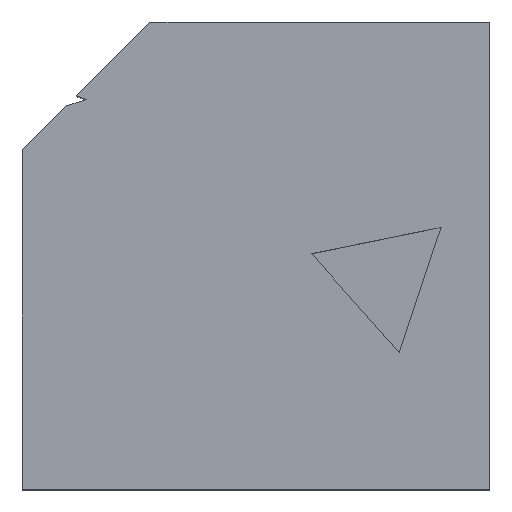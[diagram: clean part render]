
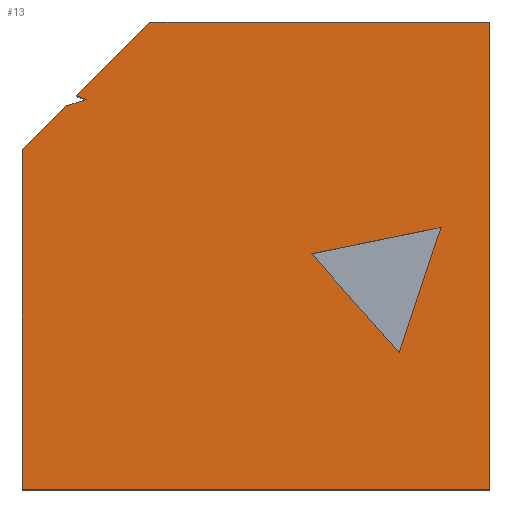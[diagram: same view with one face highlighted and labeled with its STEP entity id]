
A CAD part, top view. The second image highlights one B-rep face of the part: STEP entity #13.
In plain terms, the highlighted planar face has unit normal (0, 0, 1).
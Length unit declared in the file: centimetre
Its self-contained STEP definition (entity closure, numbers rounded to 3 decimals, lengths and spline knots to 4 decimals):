
#1 = CARTESIAN_POINT ( 'NONE',  ( 136.9483, 834.4226, 1000. ) ) ;
#11 = EDGE_CURVE ( 'NONE', #136, #599, #299, .T. ) ;
#13 = ADVANCED_FACE ( 'NONE', ( #810, #107 ), #33, .T. ) ;
#17 = EDGE_CURVE ( 'NONE', #551, #245, #232, .T. ) ;
#33 = PLANE ( 'NONE',  #803 ) ;
#41 = VECTOR ( 'NONE', #816, 100. ) ;
#45 = CARTESIAN_POINT ( 'NONE',  ( 619.0851, 504.044, 1000. ) ) ;
#47 = EDGE_CURVE ( 'NONE', #427, #551, #685, .T. ) ;
#55 = VECTOR ( 'NONE', #836, 100. ) ;
#64 = CARTESIAN_POINT ( 'NONE',  ( 0., 788.963, 1000. ) ) ;
#68 = ORIENTED_EDGE ( 'NONE', *, *, #412, .F. ) ;
#70 = DIRECTION ( 'NONE',  ( -0.707, -0.707, 0. ) ) ;
#80 = LINE ( 'NONE', #340, #547 ) ;
#101 = VECTOR ( 'NONE', #555, 100. ) ;
#107 = FACE_OUTER_BOUND ( 'NONE', #545, .T. ) ;
#132 = LINE ( 'NONE', #780, #718 ) ;
#136 = VERTEX_POINT ( 'NONE', #503 ) ;
#137 = CARTESIAN_POINT ( 'NONE',  ( 806.3402, 292.5703, 1000. ) ) ;
#144 = CARTESIAN_POINT ( 'NONE',  ( 92.9312, 819.8113, 1000. ) ) ;
#152 = CARTESIAN_POINT ( 'NONE',  ( 1000., 0., 1000. ) ) ;
#155 = VECTOR ( 'NONE', #487, 100. ) ;
#166 = DIRECTION ( 'NONE',  ( 0.317, 0.948, 0. ) ) ;
#169 = VECTOR ( 'NONE', #771, 100. ) ;
#173 = ORIENTED_EDGE ( 'NONE', *, *, #11, .T. ) ;
#179 = CARTESIAN_POINT ( 'NONE',  ( 0., 0., 1000. ) ) ;
#231 = ORIENTED_EDGE ( 'NONE', *, *, #748, .T. ) ;
#232 = LINE ( 'NONE', #45, #155 ) ;
#234 = ORIENTED_EDGE ( 'NONE', *, *, #280, .T. ) ;
#235 = ORIENTED_EDGE ( 'NONE', *, *, #459, .T. ) ;
#238 = VECTOR ( 'NONE', #842, 100. ) ;
#243 = CARTESIAN_POINT ( 'NONE',  ( 895.8542, 560.4748, 1000. ) ) ;
#245 = VERTEX_POINT ( 'NONE', #137 ) ;
#249 = LINE ( 'NONE', #765, #169 ) ;
#254 = LINE ( 'NONE', #702, #238 ) ;
#274 = CARTESIAN_POINT ( 'NONE',  ( 114.871, 841.751, 1000. ) ) ;
#280 = EDGE_CURVE ( 'NONE', #599, #365, #80, .T. ) ;
#289 = EDGE_LOOP ( 'NONE', ( #460, #593, #68 ) ) ;
#292 = CARTESIAN_POINT ( 'NONE',  ( 1000., 1000., 1000. ) ) ;
#295 = EDGE_CURVE ( 'NONE', #534, #838, #249, .T. ) ;
#298 = ORIENTED_EDGE ( 'NONE', *, *, #651, .T. ) ;
#299 = LINE ( 'NONE', #671, #41 ) ;
#323 = CARTESIAN_POINT ( 'NONE',  ( 619.0851, 504.044, 1000. ) ) ;
#329 = ORIENTED_EDGE ( 'NONE', *, *, #295, .T. ) ;
#338 = LINE ( 'NONE', #64, #55 ) ;
#340 = CARTESIAN_POINT ( 'NONE',  ( 1000., 1000., 1000. ) ) ;
#359 = DIRECTION ( 'NONE',  ( 0., 0., 1. ) ) ;
#362 = ORIENTED_EDGE ( 'NONE', *, *, #466, .T. ) ;
#365 = VERTEX_POINT ( 'NONE', #292 ) ;
#368 = VECTOR ( 'NONE', #166, 100. ) ;
#375 = VERTEX_POINT ( 'NONE', #802 ) ;
#386 = LINE ( 'NONE', #397, #101 ) ;
#397 = CARTESIAN_POINT ( 'NONE',  ( 0., 1000., 1000. ) ) ;
#411 = DIRECTION ( 'NONE',  ( 1., 0., 0. ) ) ;
#412 = EDGE_CURVE ( 'NONE', #245, #427, #742, .T. ) ;
#427 = VERTEX_POINT ( 'NONE', #243 ) ;
#459 = EDGE_CURVE ( 'NONE', #838, #844, #558, .T. ) ;
#460 = ORIENTED_EDGE ( 'NONE', *, *, #17, .F. ) ;
#466 = EDGE_CURVE ( 'NONE', #375, #136, #254, .T. ) ;
#487 = DIRECTION ( 'NONE',  ( 0.663, -0.749, 0. ) ) ;
#503 = CARTESIAN_POINT ( 'NONE',  ( 0., 0., 1000. ) ) ;
#515 = DIRECTION ( 'NONE',  ( 0.949, -0.315, 0. ) ) ;
#534 = VERTEX_POINT ( 'NONE', #840 ) ;
#545 = EDGE_LOOP ( 'NONE', ( #298, #603, #362, #173, #234, #231, #329, #235 ) ) ;
#547 = VECTOR ( 'NONE', #575, 100. ) ;
#549 = VERTEX_POINT ( 'NONE', #144 ) ;
#551 = VERTEX_POINT ( 'NONE', #323 ) ;
#555 = DIRECTION ( 'NONE',  ( -1., 0., 0. ) ) ;
#558 = LINE ( 'NONE', #1, #572 ) ;
#572 = VECTOR ( 'NONE', #515, 100. ) ;
#575 = DIRECTION ( 'NONE',  ( 0., 1., 0. ) ) ;
#593 = ORIENTED_EDGE ( 'NONE', *, *, #47, .F. ) ;
#595 = VECTOR ( 'NONE', #693, 100. ) ;
#599 = VERTEX_POINT ( 'NONE', #152 ) ;
#603 = ORIENTED_EDGE ( 'NONE', *, *, #729, .T. ) ;
#651 = EDGE_CURVE ( 'NONE', #844, #549, #338, .T. ) ;
#663 = CARTESIAN_POINT ( 'NONE',  ( 806.3402, 292.5703, 1000. ) ) ;
#671 = CARTESIAN_POINT ( 'NONE',  ( 0., 0., 1000. ) ) ;
#685 = LINE ( 'NONE', #777, #595 ) ;
#693 = DIRECTION ( 'NONE',  ( -0.98, -0.2, 0. ) ) ;
#702 = CARTESIAN_POINT ( 'NONE',  ( 0., 1000., 1000. ) ) ;
#718 = VECTOR ( 'NONE', #70, 100. ) ;
#729 = EDGE_CURVE ( 'NONE', #549, #375, #132, .T. ) ;
#732 = CARTESIAN_POINT ( 'NONE',  ( 136.9483, 834.4226, 1000. ) ) ;
#742 = LINE ( 'NONE', #663, #368 ) ;
#748 = EDGE_CURVE ( 'NONE', #365, #534, #386, .T. ) ;
#765 = CARTESIAN_POINT ( 'NONE',  ( -363.44, 363.44, 1000. ) ) ;
#771 = DIRECTION ( 'NONE',  ( -0.707, -0.707, 0. ) ) ;
#777 = CARTESIAN_POINT ( 'NONE',  ( 895.8542, 560.4748, 1000. ) ) ;
#780 = CARTESIAN_POINT ( 'NONE',  ( -363.44, 363.44, 1000. ) ) ;
#802 = CARTESIAN_POINT ( 'NONE',  ( 0., 726.88, 1000. ) ) ;
#803 = AXIS2_PLACEMENT_3D ( 'NONE', #179, #359, #411 ) ;
#810 = FACE_BOUND ( 'NONE', #289, .T. ) ;
#816 = DIRECTION ( 'NONE',  ( 1., 0., 0. ) ) ;
#836 = DIRECTION ( 'NONE',  ( -0.949, -0.315, 0. ) ) ;
#838 = VERTEX_POINT ( 'NONE', #274 ) ;
#840 = CARTESIAN_POINT ( 'NONE',  ( 273.12, 1000., 1000. ) ) ;
#842 = DIRECTION ( 'NONE',  ( 0., -1., 0. ) ) ;
#844 = VERTEX_POINT ( 'NONE', #732 ) ;
